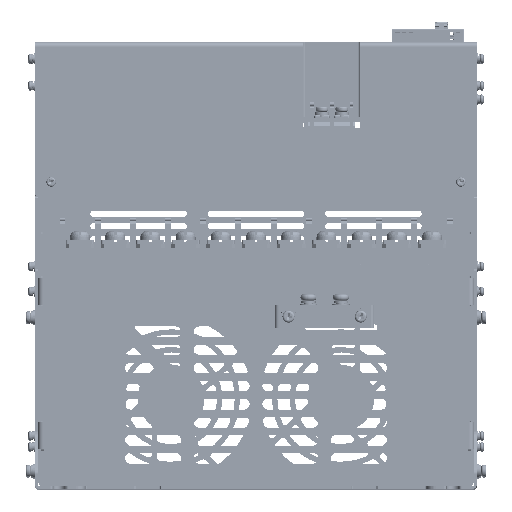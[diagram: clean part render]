
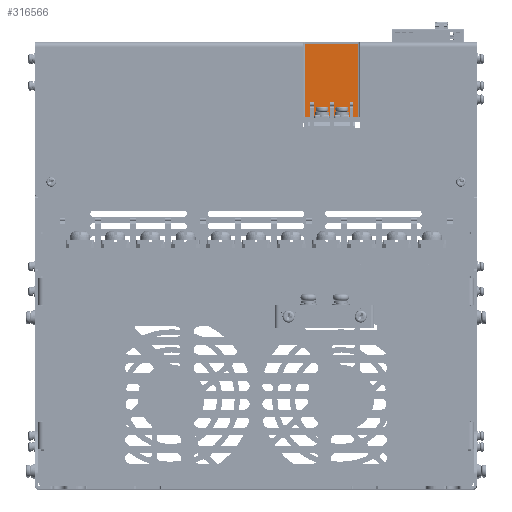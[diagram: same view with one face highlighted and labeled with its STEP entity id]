
A CAD part, top view. The second image highlights one B-rep face of the part: STEP entity #316566.
In plain terms, the highlighted planar face has unit normal (0, 0, 1).
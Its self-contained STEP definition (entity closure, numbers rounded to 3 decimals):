
#22535 = CARTESIAN_POINT ( 'NONE',  ( 56.3, 150.95, 93.6 ) ) ;
#22551 = CARTESIAN_POINT ( 'NONE',  ( 27.3, 150.95, 93.6 ) ) ;
#22633 = CARTESIAN_POINT ( 'NONE',  ( 56.3, 110.95, 93.6 ) ) ;
#22691 = CARTESIAN_POINT ( 'NONE',  ( 27.3, 110.95, 93.6 ) ) ;
#75508 = VECTOR ( 'NONE', #79152, 1000. ) ;
#76726 = AXIS2_PLACEMENT_3D ( 'NONE', #135934, #135962, #135966 ) ;
#79134 = LINE ( 'NONE', #79135, #75508 ) ;
#79135 = CARTESIAN_POINT ( 'NONE',  ( 56.3, 150.95, 93.6 ) ) ;
#79152 = DIRECTION ( 'NONE',  ( -1., 0., 0. ) ) ;
#116515 = VERTEX_POINT ( 'NONE', #22535 ) ;
#116522 = VERTEX_POINT ( 'NONE', #22551 ) ;
#116540 = VERTEX_POINT ( 'NONE', #22633 ) ;
#116549 = VERTEX_POINT ( 'NONE', #22691 ) ;
#128947 = EDGE_CURVE ( 'NONE', #116549, #116522, #266208, .T. ) ;
#129027 = EDGE_CURVE ( 'NONE', #116540, #116549, #266541, .T. ) ;
#129267 = EDGE_CURVE ( 'NONE', #116540, #116515, #267369, .T. ) ;
#135934 = CARTESIAN_POINT ( 'NONE',  ( 56.3, 110.95, 93.6 ) ) ;
#135943 = FACE_OUTER_BOUND ( 'NONE', #397030, .T. ) ;
#135958 = PLANE ( 'NONE',  #76726 ) ;
#135962 = DIRECTION ( 'NONE',  ( 0., 0., -1. ) ) ;
#135966 = DIRECTION ( 'NONE',  ( -1., 0., 0. ) ) ;
#170686 = VECTOR ( 'NONE', #266255, 1000. ) ;
#170817 = VECTOR ( 'NONE', #266555, 1000. ) ;
#171146 = VECTOR ( 'NONE', #267386, 1000. ) ;
#180384 = ORIENTED_EDGE ( 'NONE', *, *, #300434, .T. ) ;
#180387 = ORIENTED_EDGE ( 'NONE', *, *, #128947, .F. ) ;
#180390 = ORIENTED_EDGE ( 'NONE', *, *, #129027, .F. ) ;
#180392 = ORIENTED_EDGE ( 'NONE', *, *, #129267, .T. ) ;
#266208 = LINE ( 'NONE', #266242, #170686 ) ;
#266242 = CARTESIAN_POINT ( 'NONE',  ( 27.3, 110.95, 93.6 ) ) ;
#266255 = DIRECTION ( 'NONE',  ( 0., 1., 0. ) ) ;
#266541 = LINE ( 'NONE', #266550, #170817 ) ;
#266550 = CARTESIAN_POINT ( 'NONE',  ( 56.3, 110.95, 93.6 ) ) ;
#266555 = DIRECTION ( 'NONE',  ( -1., 0., 0. ) ) ;
#267369 = LINE ( 'NONE', #267381, #171146 ) ;
#267381 = CARTESIAN_POINT ( 'NONE',  ( 56.3, 110.95, 93.6 ) ) ;
#267386 = DIRECTION ( 'NONE',  ( 0., 1., 0. ) ) ;
#300434 = EDGE_CURVE ( 'NONE', #116515, #116522, #79134, .T. ) ;
#316566 = ADVANCED_FACE ( 'NONE', ( #135943 ), #135958, .F. ) ;
#397030 = EDGE_LOOP ( 'NONE', ( #180384, #180387, #180390, #180392 ) ) ;
